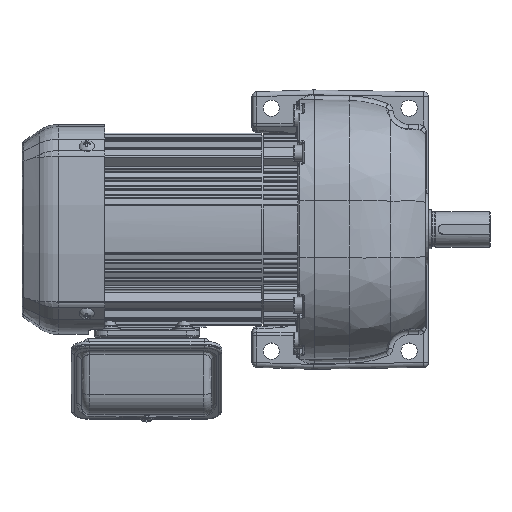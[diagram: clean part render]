
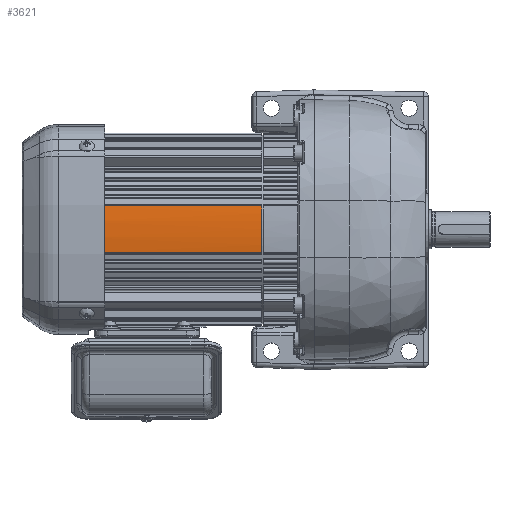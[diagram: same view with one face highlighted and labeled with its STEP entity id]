
A CAD part, top view. The second image highlights one B-rep face of the part: STEP entity #3621.
In plain terms, the highlighted cylindrical face has radius 120 mm (diameter 240 mm), a partial arc.
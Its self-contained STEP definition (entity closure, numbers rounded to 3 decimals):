
#3621 = ADVANCED_FACE( '', ( #9460 ), #9461, .T. );
#9460 = FACE_OUTER_BOUND( '', #20508, .T. );
#9461 = CYLINDRICAL_SURFACE( '', #20509, 120. );
#20508 = EDGE_LOOP( '', ( #45657, #45658, #45659, #45660, #45661 ) );
#20509 = AXIS2_PLACEMENT_3D( '', #45662, #45663, #45664 );
#45657 = ORIENTED_EDGE( '', *, *, #66421, .T. );
#45658 = ORIENTED_EDGE( '', *, *, #65993, .T. );
#45659 = ORIENTED_EDGE( '', *, *, #66422, .F. );
#45660 = ORIENTED_EDGE( '', *, *, #66423, .F. );
#45661 = ORIENTED_EDGE( '', *, *, #66424, .T. );
#45662 = CARTESIAN_POINT( '', ( -131.162, -93.376, -61.5 ) );
#45663 = DIRECTION( '', ( -1., 0., 0. ) );
#45664 = DIRECTION( '', ( 0., 0., 1. ) );
#65993 = EDGE_CURVE( '', #76441, #76445, #76447, .T. );
#66421 = EDGE_CURVE( '', #77186, #76441, #77187, .T. );
#66422 = EDGE_CURVE( '', #77188, #76445, #77189, .T. );
#66423 = EDGE_CURVE( '', #77190, #77188, #77191, .T. );
#66424 = EDGE_CURVE( '', #77190, #77186, #77192, .T. );
#76441 = VERTEX_POINT( '', #92936 );
#76445 = VERTEX_POINT( '', #92940 );
#76447 = CIRCLE( '', #92942, 120. );
#77186 = VERTEX_POINT( '', #94223 );
#77187 = CIRCLE( '', #94224, 120. );
#77188 = VERTEX_POINT( '', #94225 );
#77189 = LINE( '', #94226, #94227 );
#77190 = VERTEX_POINT( '', #94228 );
#77191 = CIRCLE( '', #94229, 120. );
#77192 = LINE( '', #94230, #94231 );
#92936 = CARTESIAN_POINT( '', ( -19.162, -93.376, 58.5 ) );
#92940 = CARTESIAN_POINT( '', ( -19.162, -78.815, 57.613 ) );
#92942 = AXIS2_PLACEMENT_3D( '', #113670, #113671, #113672 );
#94223 = CARTESIAN_POINT( '', ( -19.162, -107.937, 57.613 ) );
#94224 = AXIS2_PLACEMENT_3D( '', #114390, #114391, #114392 );
#94225 = CARTESIAN_POINT( '', ( -131.162, -78.815, 57.613 ) );
#94226 = CARTESIAN_POINT( '', ( -131.162, -78.815, 57.613 ) );
#94227 = VECTOR( '', #114393, 1000. );
#94228 = CARTESIAN_POINT( '', ( -131.162, -107.937, 57.613 ) );
#94229 = AXIS2_PLACEMENT_3D( '', #114394, #114395, #114396 );
#94230 = CARTESIAN_POINT( '', ( -131.162, -107.937, 57.613 ) );
#94231 = VECTOR( '', #114397, 1000. );
#113670 = CARTESIAN_POINT( '', ( -19.162, -93.376, -61.5 ) );
#113671 = DIRECTION( '', ( -1., 0., 0. ) );
#113672 = DIRECTION( '', ( 0., -1., 0. ) );
#114390 = CARTESIAN_POINT( '', ( -19.162, -93.376, -61.5 ) );
#114391 = DIRECTION( '', ( -1., 0., 0. ) );
#114392 = DIRECTION( '', ( 0., -1., 0. ) );
#114393 = DIRECTION( '', ( 1., 0., 0. ) );
#114394 = CARTESIAN_POINT( '', ( -131.162, -93.376, -61.5 ) );
#114395 = DIRECTION( '', ( -1., 0., 0. ) );
#114396 = DIRECTION( '', ( 0., -1., 0. ) );
#114397 = DIRECTION( '', ( 1., 0., 0. ) );
